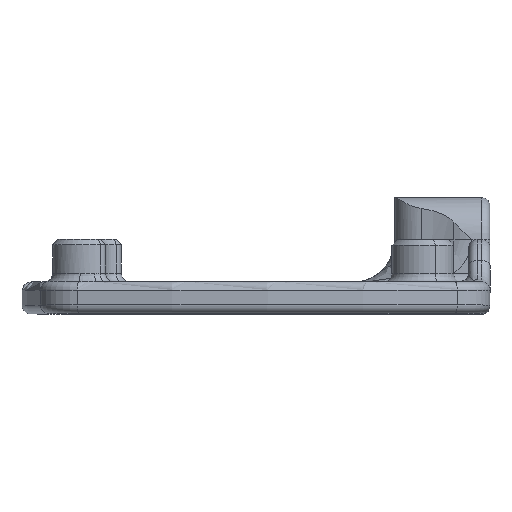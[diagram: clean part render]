
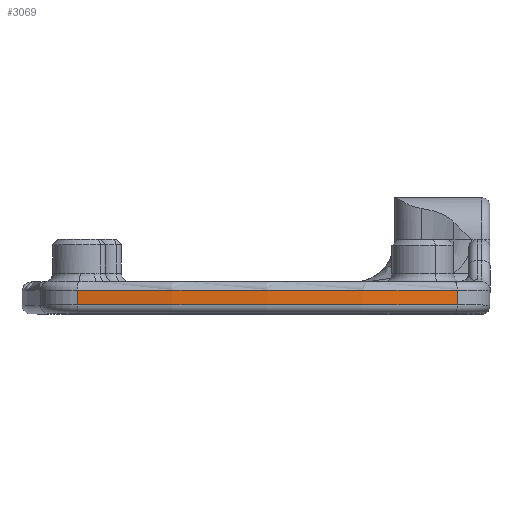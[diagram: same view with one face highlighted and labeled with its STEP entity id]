
A CAD part, top view. The second image highlights one B-rep face of the part: STEP entity #3069.
In plain terms, the highlighted cylindrical face has radius 83.966 mm (diameter 167.932 mm), a partial arc.
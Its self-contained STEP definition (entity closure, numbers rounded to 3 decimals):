
#1939=AXIS2_PLACEMENT_3D('Circle Axis2P3D',#1937,#1938,$) ;
#3051=AXIS2_PLACEMENT_3D('Cylinder Axis2P3D',#3048,#3049,#3050) ;
#3055=AXIS2_PLACEMENT_3D('Circle Axis2P3D',#3053,#3054,$) ;
#1381=CARTESIAN_POINT('Vertex',(-0.906,-0.8,36.408)) ;
#1903=CARTESIAN_POINT('Vertex',(-0.906,-2.2,36.408)) ;
#1934=CARTESIAN_POINT('Vertex',(34.9,-2.2,35.973)) ;
#1937=CARTESIAN_POINT('Axis2P3D Location',(16.,-2.2,-45.839)) ;
#3032=CARTESIAN_POINT('Vertex',(34.9,-0.8,35.973)) ;
#3035=CARTESIAN_POINT('Line Origine',(34.9,2.5,35.973)) ;
#3048=CARTESIAN_POINT('Axis2P3D Location',(16.,-1.5,-45.839)) ;
#3053=CARTESIAN_POINT('Axis2P3D Location',(16.,-0.8,-45.839)) ;
#3058=CARTESIAN_POINT('Line Origine',(-0.906,-1.5,36.408)) ;
#1938=DIRECTION('Axis2P3D Direction',(0.,1.,0.)) ;
#3036=DIRECTION('Vector Direction',(0.,-1.,0.)) ;
#3049=DIRECTION('Axis2P3D Direction',(0.,1.,0.)) ;
#3050=DIRECTION('Axis2P3D XDirection',(-0.201,0.,0.98)) ;
#3054=DIRECTION('Axis2P3D Direction',(0.,1.,0.)) ;
#3059=DIRECTION('Vector Direction',(0.,1.,0.)) ;
#3037=VECTOR('Line Direction',#3036,1.) ;
#3060=VECTOR('Line Direction',#3059,1.) ;
#3064=ORIENTED_EDGE('',*,*,#3039,.F.) ;
#3065=ORIENTED_EDGE('',*,*,#3057,.T.) ;
#3066=ORIENTED_EDGE('',*,*,#3062,.T.) ;
#3067=ORIENTED_EDGE('',*,*,#1941,.F.) ;
#3069=ADVANCED_FACE('Nut',(#3068),#3052,.T.) ;
#1940=CIRCLE('generated circle',#1939,83.966) ;
#3056=CIRCLE('generated circle',#3055,83.966) ;
#3052=CYLINDRICAL_SURFACE('generated cylinder',#3051,83.966) ;
#1941=EDGE_CURVE('',#1935,#1904,#1940,.F.) ;
#3039=EDGE_CURVE('',#3033,#1935,#3038,.T.) ;
#3057=EDGE_CURVE('',#3033,#1382,#3056,.F.) ;
#3062=EDGE_CURVE('',#1382,#1904,#3061,.F.) ;
#3063=EDGE_LOOP('',(#3064,#3065,#3066,#3067)) ;
#3068=FACE_OUTER_BOUND('',#3063,.T.) ;
#3038=LINE('Line',#3035,#3037) ;
#3061=LINE('Line',#3058,#3060) ;
#1382=VERTEX_POINT('',#1381) ;
#1904=VERTEX_POINT('',#1903) ;
#1935=VERTEX_POINT('',#1934) ;
#3033=VERTEX_POINT('',#3032) ;
